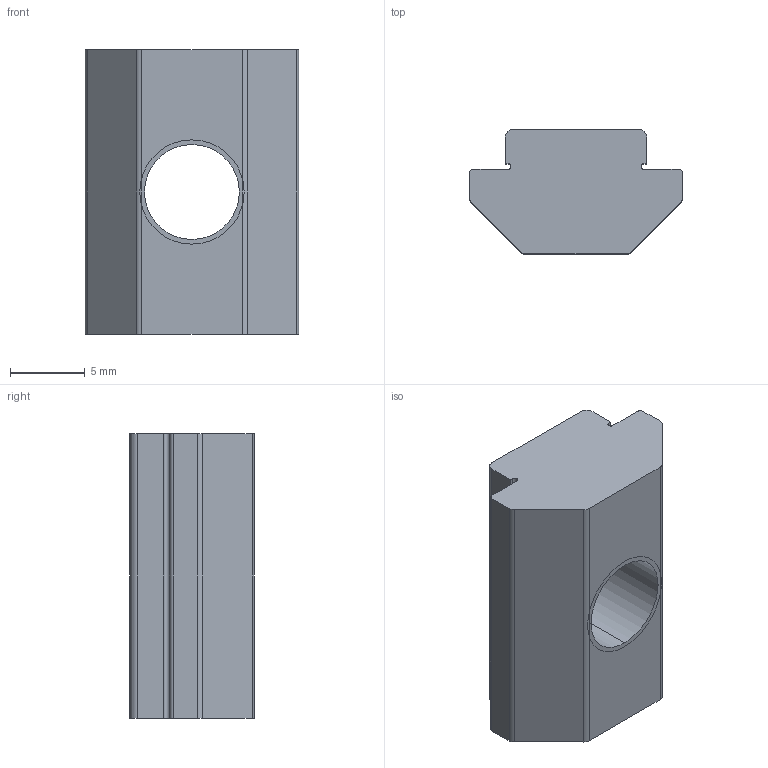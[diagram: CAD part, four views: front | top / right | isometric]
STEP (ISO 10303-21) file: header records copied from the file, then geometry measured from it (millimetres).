
FILE_DESCRIPTION((''),'2;1');
FILE_NAME('639971','2016-07-07T',('adam.dellomodarme'),(''),'PRO/ENGINEER BY PARAMETRIC TECHNOLOGY CORPORATION, 2012420','PRO/ENGINEER BY PARAMETRIC TECHNOLOGY CORPORATION, 2012420','');
FILE_SCHEMA(('CONFIG_CONTROL_DESIGN'));
Length unit declared in the file: inch
Products named in the file (1): 639971
Bounding box: 14.3 x 8.33 x 19.05 mm (x, y, z)
Volume: 1508.2 mm3; surface area: 1262.7 mm2
Topology: 1 solids, 2 shells, 28 faces, 78 edges, 52 vertices
Faces by surface type: plane 14, cylinder 14
Entity records: 960 total; most frequent: DIRECTION 164, CARTESIAN_POINT 159, ORIENTED_EDGE 152, EDGE_CURVE 78, AXIS2_PLACEMENT_3D 57, VERTEX_POINT 52, VECTOR 50, LINE 50
